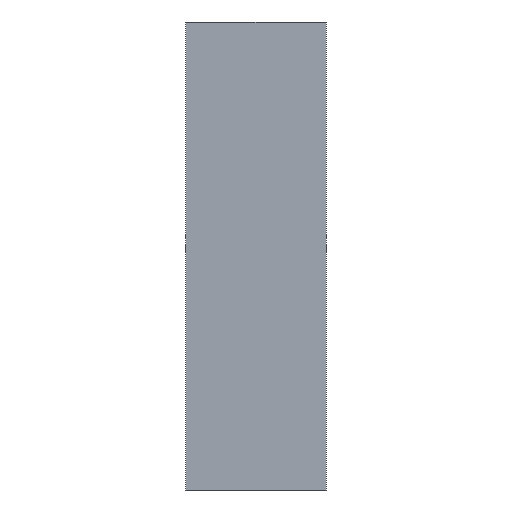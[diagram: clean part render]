
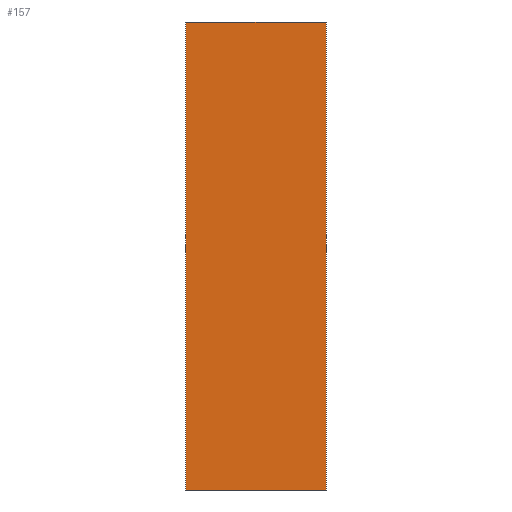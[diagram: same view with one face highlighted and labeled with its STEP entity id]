
A CAD part, front view. The second image highlights one B-rep face of the part: STEP entity #157.
In plain terms, the highlighted planar face has unit normal (0, -1, 0).
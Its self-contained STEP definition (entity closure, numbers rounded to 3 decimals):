
#5 = LINE ( 'NONE', #26, #107 ) ;
#10 = DIRECTION ( 'NONE',  ( 0., -1., 0. ) ) ;
#11 = DIRECTION ( 'NONE',  ( 0., 0., 1. ) ) ;
#13 = LINE ( 'NONE', #112, #166 ) ;
#25 = DIRECTION ( 'NONE',  ( 0., 0., 1. ) ) ;
#26 = CARTESIAN_POINT ( 'NONE',  ( -15., -15., 100. ) ) ;
#53 = DIRECTION ( 'NONE',  ( 1., 0., 0. ) ) ;
#60 = VECTOR ( 'NONE', #11, 1000. ) ;
#70 = ORIENTED_EDGE ( 'NONE', *, *, #212, .F. ) ;
#73 = AXIS2_PLACEMENT_3D ( 'NONE', #154, #10, #79 ) ;
#79 = DIRECTION ( 'NONE',  ( 0., 0., -1. ) ) ;
#83 = CARTESIAN_POINT ( 'NONE',  ( -15., -15., 0. ) ) ;
#92 = EDGE_CURVE ( 'NONE', #99, #103, #173, .T. ) ;
#95 = ORIENTED_EDGE ( 'NONE', *, *, #235, .T. ) ;
#96 = EDGE_CURVE ( 'NONE', #292, #103, #5, .T. ) ;
#97 = ORIENTED_EDGE ( 'NONE', *, *, #92, .T. ) ;
#99 = VERTEX_POINT ( 'NONE', #105 ) ;
#103 = VERTEX_POINT ( 'NONE', #246 ) ;
#105 = CARTESIAN_POINT ( 'NONE',  ( 15., -15., 0. ) ) ;
#107 = VECTOR ( 'NONE', #53, 1000. ) ;
#112 = CARTESIAN_POINT ( 'NONE',  ( -15., -15., 0. ) ) ;
#118 = LINE ( 'NONE', #83, #60 ) ;
#154 = CARTESIAN_POINT ( 'NONE',  ( -15., -15., 0. ) ) ;
#157 = ADVANCED_FACE ( 'NONE', ( #295 ), #223, .T. ) ;
#165 = EDGE_LOOP ( 'NONE', ( #168, #70, #95, #97 ) ) ;
#166 = VECTOR ( 'NONE', #205, 1000. ) ;
#168 = ORIENTED_EDGE ( 'NONE', *, *, #96, .F. ) ;
#173 = LINE ( 'NONE', #217, #266 ) ;
#186 = CARTESIAN_POINT ( 'NONE',  ( -15., -15., 100. ) ) ;
#205 = DIRECTION ( 'NONE',  ( 1., 0., 0. ) ) ;
#212 = EDGE_CURVE ( 'NONE', #218, #292, #118, .T. ) ;
#217 = CARTESIAN_POINT ( 'NONE',  ( 15., -15., 0. ) ) ;
#218 = VERTEX_POINT ( 'NONE', #296 ) ;
#223 = PLANE ( 'NONE',  #73 ) ;
#235 = EDGE_CURVE ( 'NONE', #218, #99, #13, .T. ) ;
#246 = CARTESIAN_POINT ( 'NONE',  ( 15., -15., 100. ) ) ;
#266 = VECTOR ( 'NONE', #25, 1000. ) ;
#292 = VERTEX_POINT ( 'NONE', #186 ) ;
#295 = FACE_OUTER_BOUND ( 'NONE', #165, .T. ) ;
#296 = CARTESIAN_POINT ( 'NONE',  ( -15., -15., 0. ) ) ;
